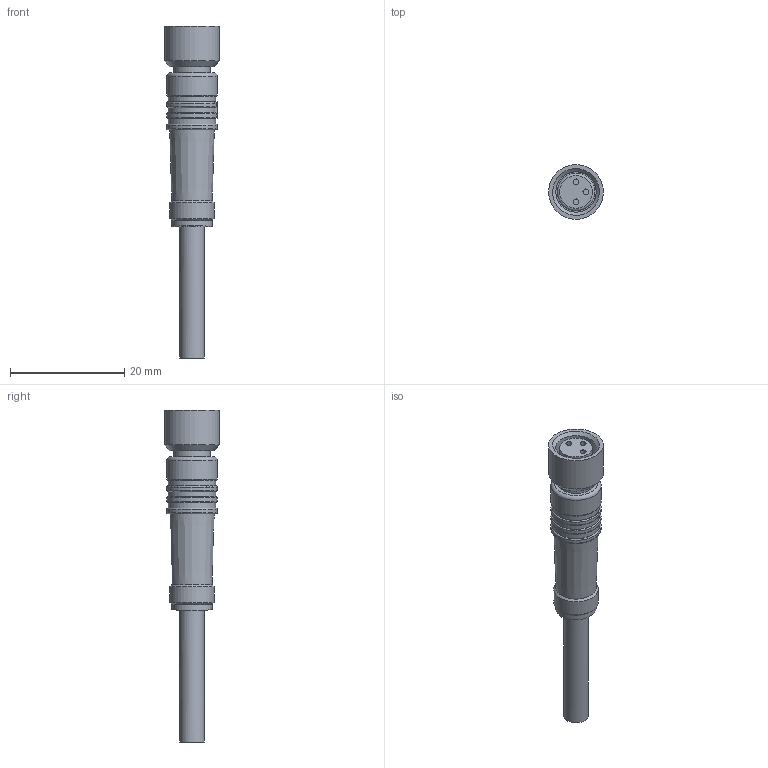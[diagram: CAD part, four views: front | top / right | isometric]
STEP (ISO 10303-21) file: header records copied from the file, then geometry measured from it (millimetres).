
FILE_DESCRIPTION( ( 'Unknown' ), '1' );
FILE_NAME( 'C:/Users/txr10011/Documents/1_in Bearbeitung/151016/Hüllmodelle/RKMV 3-224_xxM.stp', 'Unknown', ( 'Unknown' ), ( 'Unknown' ), 'PSStep 17.0.49', 'Unknown', ' ' );
FILE_SCHEMA( ( 'AUTOMOTIVE_DESIGN { 1 0 10303 214 1 1 1 1 }' ) );
Length unit declared in the file: millimetre
Products named in the file (1): 22
Bounding box: 9.57 x 9.57 x 58.2 mm (x, y, z)
Volume: 2086.1 mm3; surface area: 1680.7 mm2
Topology: 1 solids, 1 shells, 92 faces, 203 edges, 130 vertices
Faces by surface type: plane 42, cylinder 29, torus 10, cone 7, extrusion 4
Full cylindrical faces by diameter (mm): 1.05 x3, 4.3 x1, 5.7 x1, 6.4 x1, 7.05 x1, 7.1 x3, 7.2 x1, 7.8 x1, 8.2 x1, 8.3 x2, 8.8 x2, 9.6 x1
Entity records: 3416 total; most frequent: CARTESIAN_POINT 758, DIRECTION 401, ORIENTED_EDGE 332, EDGE_CURVE 166, AXIS2_PLACEMENT_3D 159, EDGE_LOOP 140, VERTEX_POINT 125, FACE_OUTER_BOUND 116
